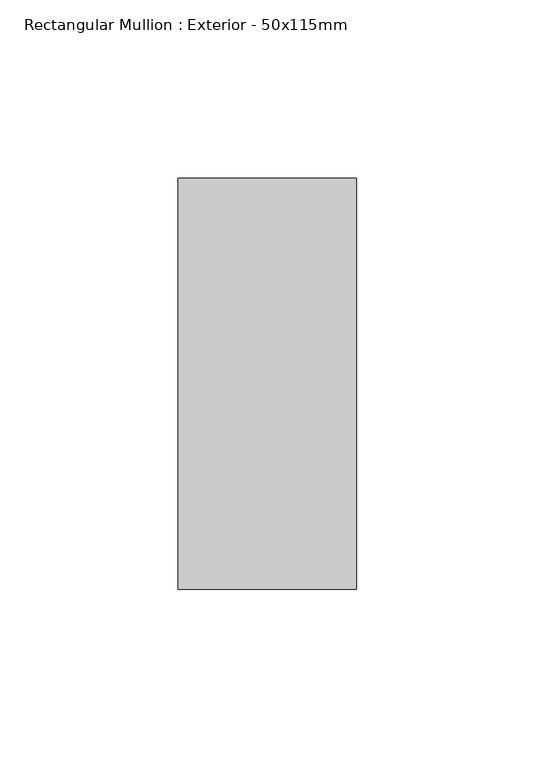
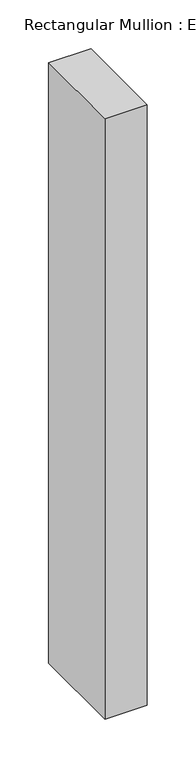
"""IFC4 building model written with IfcOpenShell, lengths in millimetres: member geometry, Rectangular Mullion : Exterior - 50x115mm."""

import ifcopenshell
import ifcopenshell.guid

model = None  # the IFC model being written
_history = None  # IfcOwnerHistory: only IFC2X3 demands one
_inside = {}  # id of a spatial element -> (the spatial element, [elements in it])
_under = {}  # id of a project, library or spatial element -> (it, [spatial elements below it])
_declared = {}  # id of a project -> (the project, [libraries it declares])
_typed = {}  # id of a type object -> (the type object, [elements of that type])
_made_of = {}  # id of a material, layer set ... -> (it, [elements and type objects made of it])


def new_model(schema):
    """Start an empty IFC model of exactly this schema.

    Asked for "IFC4X3", IfcOpenShell would pick the latest addendum, in which some entities
    have other attributes; the version numbers below select the first issue.
    IFC2X3 requires an IfcOwnerHistory on every rooted entity: one is made here for all.
    """
    global model, _history
    if schema == "IFC4X3":
        model = ifcopenshell.file(schema_version=(4, 3, 0, 0))
    else:
        model = ifcopenshell.file(schema=schema)
    _inside.clear()
    _under.clear()
    _declared.clear()
    _typed.clear()
    _made_of.clear()
    _history = None
    if model.schema == "IFC2X3":
        org = make("IfcOrganization", Name="unknown")
        user = make(
            "IfcPersonAndOrganization",
            ThePerson=make("IfcPerson", FamilyName="unknown"),
            TheOrganization=org,
        )
        app = make(
            "IfcApplication",
            ApplicationDeveloper=org,
            Version="unknown",
            ApplicationFullName="unknown",
            ApplicationIdentifier="unknown",
        )
        _history = make(
            "IfcOwnerHistory",
            OwningUser=user,
            OwningApplication=app,
            ChangeAction="ADDED",
            CreationDate=0,
        )
    return model


def make(cls, **values):
    """One entity of the class cls with the attributes given. An attribute that is None is left unset."""
    return model.create_entity(
        cls, **{name: value for name, value in values.items() if value is not None}
    )


def rooted(cls, **values):
    """An entity with a GlobalId (a new one), such as an element, a storey or a relation."""
    return make(cls, GlobalId=ifcopenshell.guid.new(), OwnerHistory=_history, **values)


def si_unit(unit_type, name, prefix=None):
    """IfcSIUnit, for example si_unit("LENGTHUNIT", "METRE", prefix="MILLI")."""
    return make("IfcSIUnit", UnitType=unit_type, Prefix=prefix, Name=name)


def assignment(units):
    """IfcUnitAssignment: the units of a project."""
    return None if units is None else make("IfcUnitAssignment", Units=units)


def point(xyz):
    """IfcCartesianPoint."""
    return None if xyz is None else make("IfcCartesianPoint", Coordinates=xyz)


def direction(xyz):
    """IfcDirection."""
    return None if xyz is None else make("IfcDirection", DirectionRatios=xyz)


def frame(location, z_axis=None, x_axis=None):
    """IfcAxis2Placement3D, a coordinate frame: its origin and axes. An axis left out is left unset."""
    return make(
        "IfcAxis2Placement3D",
        Location=point(location),
        Axis=direction(z_axis),
        RefDirection=direction(x_axis),
    )


def origin():
    """The frame at (0, 0, 0) with its axes left unset."""
    return frame((0.0, 0.0, 0.0))


def place(relative_to, where):
    """IfcLocalPlacement: puts the frame where relative to a parent placement (None: the world)."""
    return make(
        "IfcLocalPlacement", PlacementRelTo=relative_to, RelativePlacement=where
    )


def context(
    kind, dimensions, precision=None, world=None, true_north=None, identifier=None
):
    """IfcGeometricRepresentationContext, for example the 3D "Model" context."""
    return make(
        "IfcGeometricRepresentationContext",
        ContextIdentifier=identifier,
        ContextType=kind,
        CoordinateSpaceDimension=dimensions,
        Precision=precision,
        WorldCoordinateSystem=world,
        TrueNorth=true_north,
    )


def project(units=None, contexts=None):
    """IfcProject with its units and contexts."""
    return rooted(
        "IfcProject",
        Name="project",
        RepresentationContexts=contexts,
        UnitsInContext=assignment(units),
    )


def spatial(cls, under=None, at=None, **own):
    """A site, building, storey or space (cls), placed at a placement, below another one or the project."""
    s = rooted(cls, ObjectPlacement=at, **own)
    if under is not None:
        _under.setdefault(under.id(), (under, []))[1].append(s)
    return s


def polyline(points):
    """IfcPolyline through the points."""
    return make("IfcPolyline", Points=[point(p) for p in points])


def outline(outer, holes=None, kind="AREA"):
    """IfcArbitraryClosedProfileDef: a profile drawn as a closed curve; with holes, ...WithVoids."""
    if holes is None:
        return make("IfcArbitraryClosedProfileDef", ProfileType=kind, OuterCurve=outer)
    return make(
        "IfcArbitraryProfileDefWithVoids",
        ProfileType=kind,
        OuterCurve=outer,
        InnerCurves=holes,
    )


def extrude(swept, where, along, depth):
    """IfcExtrudedAreaSolid: the profile swept, set in the frame where, extruded along a direction by depth."""
    return make(
        "IfcExtrudedAreaSolid",
        SweptArea=swept,
        Position=where,
        ExtrudedDirection=direction(along),
        Depth=depth,
    )


def shape(context_of_items, identifier, shape_type, items):
    """IfcShapeRepresentation: the items that make up one representation, for example the "Body"."""
    return make(
        "IfcShapeRepresentation",
        ContextOfItems=context_of_items,
        RepresentationIdentifier=identifier,
        RepresentationType=shape_type,
        Items=items,
    )


def source(mapping_origin, context_of_items, identifier, shape_type, items):
    """IfcRepresentationMap: a shape defined once, which mapped items show again and again."""
    return make(
        "IfcRepresentationMap",
        MappingOrigin=mapping_origin,
        MappedRepresentation=shape(context_of_items, identifier, shape_type, items),
    )


def transform(
    local_origin,
    x_axis=None,
    y_axis=None,
    z_axis=None,
    scale=None,
    scale2=None,
    scale3=None,
    uniform=True,
):
    """IfcCartesianTransformationOperator3D, or its non-uniform kind. x_axis, y_axis, z_axis: its Axis1, 2, 3."""
    if uniform:
        return make(
            "IfcCartesianTransformationOperator3D",
            Axis1=direction(x_axis),
            Axis2=direction(y_axis),
            LocalOrigin=point(local_origin),
            Scale=scale,
            Axis3=direction(z_axis),
        )
    return make(
        "IfcCartesianTransformationOperator3DnonUniform",
        Axis1=direction(x_axis),
        Axis2=direction(y_axis),
        LocalOrigin=point(local_origin),
        Scale=scale,
        Axis3=direction(z_axis),
        Scale2=scale2,
        Scale3=scale3,
    )


def mapped(mapping_source, mapping_target):
    """IfcMappedItem: shows the shape of a source again, moved by a transform."""
    return make(
        "IfcMappedItem", MappingSource=mapping_source, MappingTarget=mapping_target
    )


def made_of(thing, what):
    """Note that an element or type object is made of a material, layer set ...; save() writes the relation."""
    if what is not None:
        _made_of.setdefault(what.id(), (what, []))[1].append(thing)
    return thing


def element(
    cls,
    number,
    at=None,
    inside=None,
    cuts=None,
    type_object=None,
    material=None,
    context=None,
    identifier="Body",
    shape_type=None,
    held_by="IfcProductDefinitionShape",
    body=None,
    shapes=None,
    **own,
):
    """One element of the class cls, such as IfcWall. Its Tag is "e" and its number.

    at: its placement. inside: the storey or other place that contains it. cuts: it is an
    opening in that element (IfcRelVoidsElement). A single representation is given by context,
    identifier, shape_type and body (its items); several are given by shapes. held_by: the class
    of the entity that holds the representations. save() writes the other relations.
    """
    e = rooted(cls, Tag="e%d" % number, ObjectPlacement=at, **own)
    if body is not None:
        shapes = [shape(context, identifier, shape_type, body)]
    if shapes is not None:
        e.Representation = make(held_by, Representations=shapes)
    if inside is not None:
        _inside.setdefault(inside.id(), (inside, []))[1].append(e)
    if cuts is not None:
        rooted(
            "IfcRelVoidsElement", RelatingBuildingElement=cuts, RelatedOpeningElement=e
        )
    if type_object is not None:
        _typed.setdefault(type_object.id(), (type_object, []))[1].append(e)
    return made_of(e, material)


def aggregate(whole, parts):
    """IfcRelAggregates: a whole, such as a stair, and the parts it consists of."""
    return rooted("IfcRelAggregates", RelatingObject=whole, RelatedObjects=parts)


def save(model, path):
    """Write the relations noted so far, then the file.

    IfcRelAggregates (storeys below a building ...), IfcRelContainedInSpatialStructure (elements
    in a storey), IfcRelDefinesByType, IfcRelAssociatesMaterial and IfcRelDeclares: one each for
    every whole, place, type object, material and project.
    """
    for whole, parts in _under.values():
        aggregate(whole, parts)
    for where, things in _inside.values():
        rooted(
            "IfcRelContainedInSpatialStructure",
            RelatedElements=things,
            RelatingStructure=where,
        )
    for kind, things in _typed.values():
        rooted("IfcRelDefinesByType", RelatedObjects=things, RelatingType=kind)
    for what, things in _made_of.values():
        rooted("IfcRelAssociatesMaterial", RelatedObjects=things, RelatingMaterial=what)
    for by, libraries in _declared.values():
        rooted("IfcRelDeclares", RelatingContext=by, RelatedDefinitions=libraries)
    model.write(path)


def rectangular_mullion_exterior_50x115mm_459bfba9(model_context):
    return source(origin(), model_context, "Body", "SweptSolid", [
        extrude(outline(polyline([(25.0, 115.0), (25.0, 0.0), (-25.0, 0.0), (-25.0, 115.0), (25.0, 115.0)])), frame((0.0, 0.0, -750.0), z_axis=(0.0, 0.0, 1.0), x_axis=(1.0, 0.0, 0.0)), (0.0, 0.0, 1.0), 750.0),
    ])


if __name__ == "__main__":
    model = new_model("IFC4")
    model_context = context("Model", 3, world=origin())
    ifc_project = project(units=[si_unit("LENGTHUNIT", "METRE", prefix="MILLI")], contexts=[model_context])
    site = spatial("IfcSite", under=ifc_project)
    building = spatial("IfcBuilding", under=site)
    placement = place(None, origin())
    rectangular_mullion_exterior_50x115mm_shape = rectangular_mullion_exterior_50x115mm_459bfba9(model_context)
    element("IfcMember", 1, ObjectType="Rectangular Mullion : Exterior - 50x115mm", at=placement, inside=building, context=model_context, shape_type="MappedRepresentation", body=[
        mapped(rectangular_mullion_exterior_50x115mm_shape, transform((0.0, 0.0, 0.0), x_axis=(1.0, 0.0, 0.0), y_axis=(0.0, 1.0, 0.0), z_axis=(0.0, 0.0, 1.0))),
    ])
    save(model, "model.ifc")
